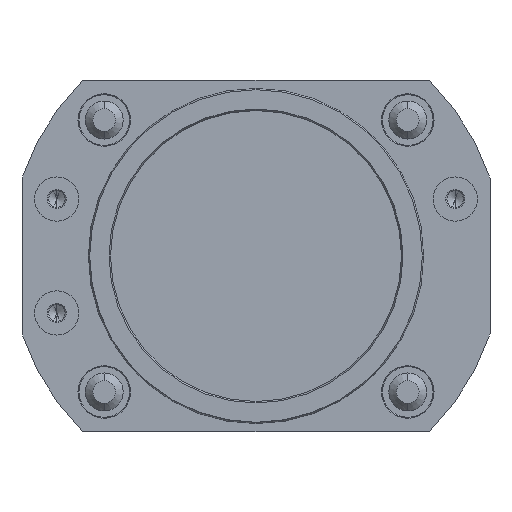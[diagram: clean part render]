
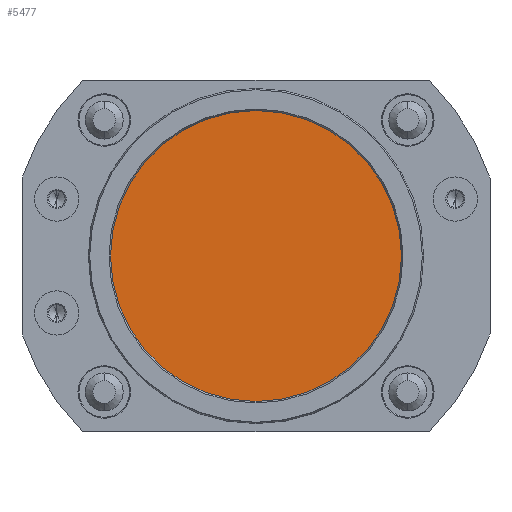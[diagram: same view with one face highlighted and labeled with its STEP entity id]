
A CAD part, front view. The second image highlights one B-rep face of the part: STEP entity #5477.
In plain terms, the highlighted planar face has unit normal (0, -1, 0).
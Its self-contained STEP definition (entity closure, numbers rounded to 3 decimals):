
#5231 = VERTEX_POINT ( 'NONE', #6950 ) ;
#5253 = EDGE_CURVE ( 'NONE', #5231, #5270, #7025, .T. ) ;
#5270 = VERTEX_POINT ( 'NONE', #7088 ) ;
#5400 = EDGE_CURVE ( 'NONE', #5270, #5231, #7168, .T. ) ;
#5445 = ORIENTED_EDGE ( 'NONE', *, *, #5253, .F. ) ;
#5446 = ORIENTED_EDGE ( 'NONE', *, *, #5400, .F. ) ;
#5477 = ADVANCED_FACE ( 'NONE', ( #7334 ), #7342, .T. ) ;
#5500 = EDGE_LOOP ( 'NONE', ( #5446, #5445 ) ) ;
#6950 = CARTESIAN_POINT ( 'NONE',  ( 0., 3., -23. ) ) ;
#6999 = DIRECTION ( 'NONE',  ( 0., 0., 1. ) ) ;
#7000 = DIRECTION ( 'NONE',  ( 0., 1., 0. ) ) ;
#7013 = CARTESIAN_POINT ( 'NONE',  ( 0., 3., 0. ) ) ;
#7022 = AXIS2_PLACEMENT_3D ( 'NONE', #7013, #7000, #6999 ) ;
#7025 = CIRCLE ( 'NONE', #7022, 23. ) ;
#7088 = CARTESIAN_POINT ( 'NONE',  ( 0., 3., 23. ) ) ;
#7168 = CIRCLE ( 'NONE', #7201, 23. ) ;
#7190 = DIRECTION ( 'NONE',  ( 0., 0., 1. ) ) ;
#7191 = DIRECTION ( 'NONE',  ( 0., 1., 0. ) ) ;
#7192 = CARTESIAN_POINT ( 'NONE',  ( 0., 3., 0. ) ) ;
#7201 = AXIS2_PLACEMENT_3D ( 'NONE', #7192, #7191, #7190 ) ;
#7334 = FACE_OUTER_BOUND ( 'NONE', #5500, .T. ) ;
#7342 = PLANE ( 'NONE',  #7364 ) ;
#7361 = DIRECTION ( 'NONE',  ( 0., 0., -1. ) ) ;
#7362 = DIRECTION ( 'NONE',  ( 0., -1., 0. ) ) ;
#7363 = CARTESIAN_POINT ( 'NONE',  ( 0., 3., 0. ) ) ;
#7364 = AXIS2_PLACEMENT_3D ( 'NONE', #7363, #7362, #7361 ) ;
